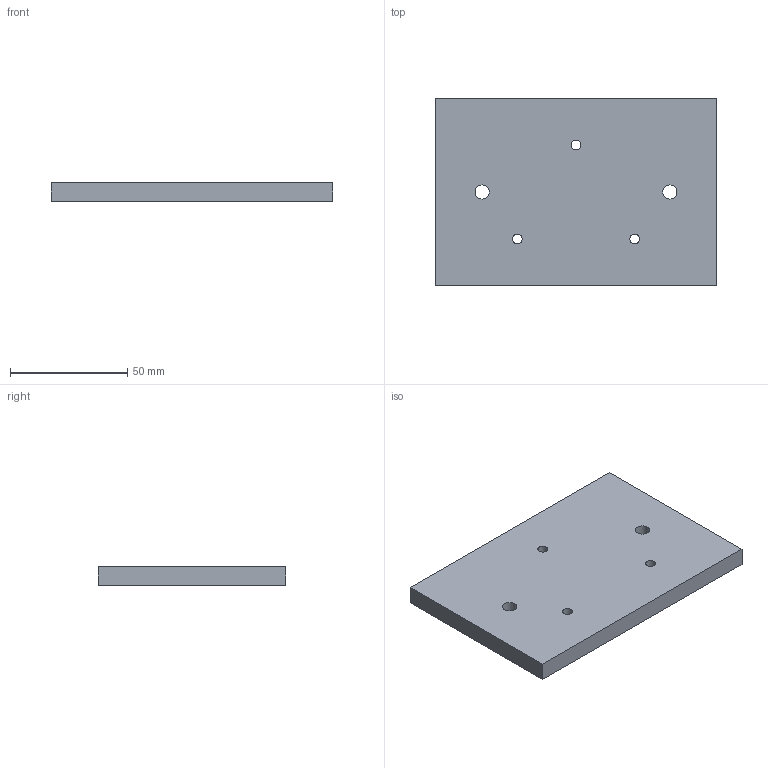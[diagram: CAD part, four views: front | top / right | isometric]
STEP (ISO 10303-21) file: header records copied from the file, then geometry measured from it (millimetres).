
FILE_DESCRIPTION(('Open CASCADE Model'),'2;1');
FILE_NAME('Open CASCADE Shape Model','2026-10-28T05:16:18',('Author'),( 'Open CASCADE'),'Open CASCADE STEP processor 7.8','Open CASCADE 7.8' ,'Unknown');
FILE_SCHEMA(('AUTOMOTIVE_DESIGN { 1 0 10303 214 1 1 1 1 }'));
Length unit declared in the file: millimetre
Products named in the file (1): Open CASCADE STEP translator 7.8 25
Bounding box: 120 x 80 x 8 mm (x, y, z)
Volume: 76010.6 mm3; surface area: 22822.4 mm2
Topology: 1 solids, 1 shells, 11 faces, 27 edges, 18 vertices
Faces by surface type: plane 6, cylinder 5
Full cylindrical faces by diameter (mm): 4.2 x3, 6.03 x2
Entity records: 712 total; most frequent: DIRECTION 115, CARTESIAN_POINT 111, LINE 61, VECTOR 61, ORIENTED_EDGE 54, PCURVE 54, DEFINITIONAL_REPRESENTATION 54, EDGE_CURVE 27
